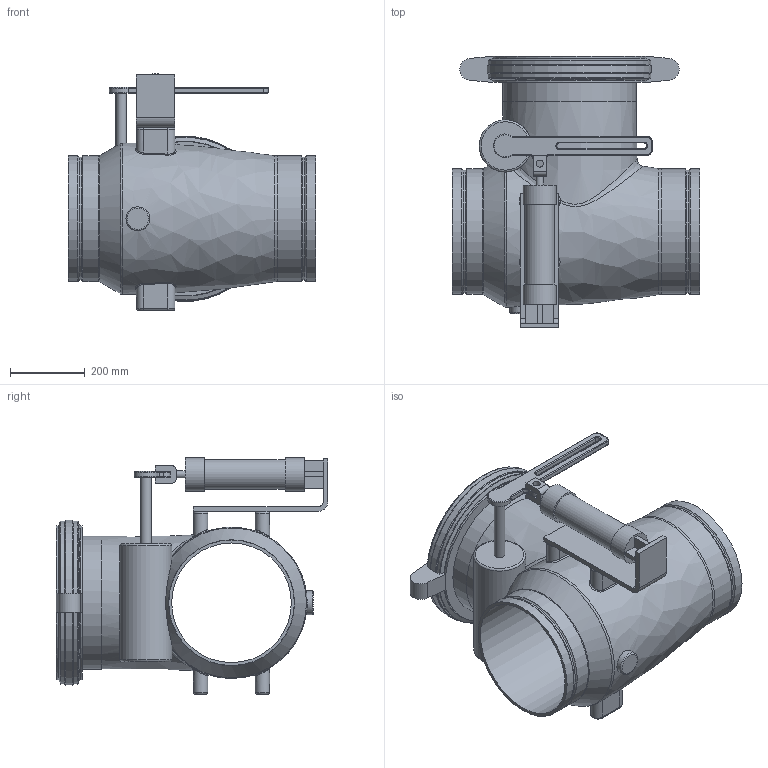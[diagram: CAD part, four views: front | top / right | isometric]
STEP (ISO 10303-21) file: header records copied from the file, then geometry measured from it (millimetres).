
FILE_DESCRIPTION(/* description */ ('VIC AWWA VALVE CHECK AIR CUSHION SERIES 317 (DRG)','CAx-IF Rec.Pracs.---Representation and Presentation of Product Manufacturing Information (PMI)---4.0---2014-10-13'),/* implementation_level */ '2;1');
FILE_NAME(/* name */ 'C:\Users\Vjadhav\Desktop\CAD for Inventor\1\317\STEP\Victaulic_AWWA_Valve Check Air Cushion_Series 317 (DRG)\Victaulic_AWWA_Valve Check Air Cushion_Series 317 (DRG)_12 (300).stp',/* time_stamp */ '2021-10-01T17:33:48+05:00',/* author */ ('jbrannon'),/* organization */ ('Victaulic'),/* preprocessor_version */ 'ST-DEVELOPER v17.2',/* originating_system */ 'Autodesk Inventor 2019',/* authorisation */ '');
FILE_SCHEMA (('AP242_MANAGED_MODEL_BASED_3D_ENGINEERING_MIM_LF { 1 0 10303 442 1 1 4 }'));
Length unit declared in the file: inch
Products named in the file (1): 317-12.0
Bounding box: 660.4 x 725.68 x 631.7 mm (x, y, z)
Volume: 57664470.5 mm3; surface area: 2360715.7 mm2
Topology: 1 solids, 1 shells, 229 faces, 593 edges, 376 vertices
Faces by surface type: cylinder 74, plane 70, torus 49, bspline 26, cone 10
Full cylindrical faces by diameter (mm): 19.05 x1, 19.177 x2, 28.575 x1, 63.5 x1, 78.74 x1, 88.9 x2, 139.192 x1, 319.532 x1, 327.812 x2, 335.28 x4, 355.6 x1
Entity records: 9135 total; most frequent: CARTESIAN_POINT 3239, ORIENTED_EDGE 1188, DIRECTION 1183, EDGE_CURVE 594, AXIS2_PLACEMENT_3D 476, VERTEX_POINT 376, CIRCLE 259, EDGE_LOOP 252
